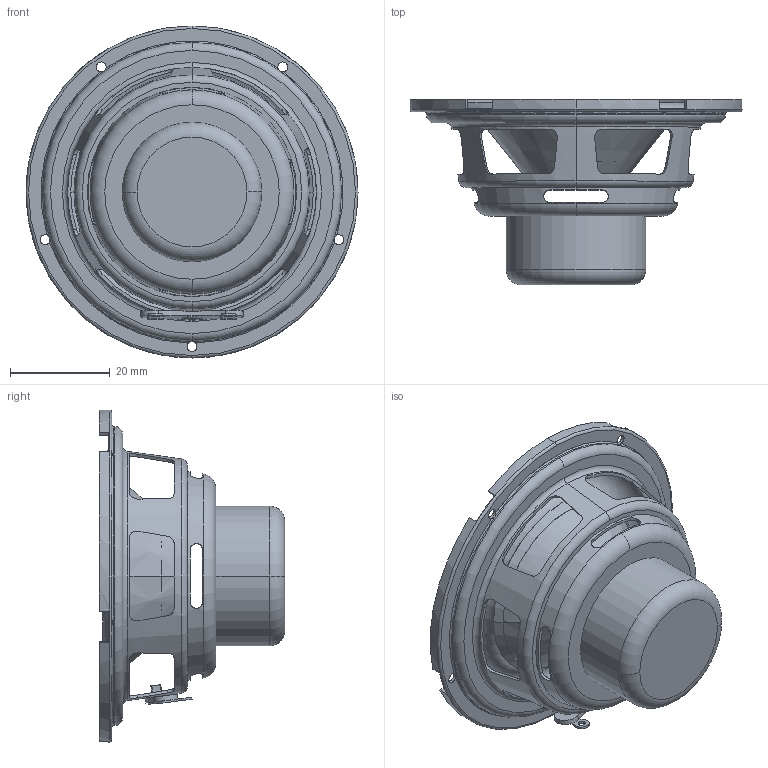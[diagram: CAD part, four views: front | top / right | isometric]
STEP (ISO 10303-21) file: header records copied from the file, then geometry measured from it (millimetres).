
FILE_DESCRIPTION((''),'2;1');
FILE_NAME('5F02C_V2_ASM','2023-09-23T13:31:00',('54257'),(''),'CREO PARAMETRIC BY PTC INC, 2020053','CREO PARAMETRIC BY PTC INC, 2020053','');
FILE_SCHEMA(('CONFIG_CONTROL_DESIGN','SHAPE_APPEARANCE_LAYERS_GROUPS'));
Length unit declared in the file: millimetre
Products named in the file (6): HF-3005-V5; HU_V2; HC_V2; HD_V2; 07-0013-0_V2; 5F02C_V2_ASM
Assembly tree (5 placements, depth 2):
  5F02C_V2_ASM
    HF-3005-V5
    HU_V2
    HC_V2
    HD_V2
    07-0013-0_V2
Bounding box: 66.6 x 37.2 x 66.6 mm (x, y, z)
Volume: 8205.2 mm3; surface area: 20912.6 mm2
Topology: 5 solids, 5 shells, 238 faces, 637 edges, 402 vertices
Faces by surface type: plane 96, cylinder 77, torus 35, cone 26, sphere 4
Entity records: 8879 total; most frequent: CARTESIAN_POINT 2154, DIRECTION 1296, ORIENTED_EDGE 1266, EDGE_CURVE 633, AXIS2_PLACEMENT_3D 526, VERTEX_POINT 402, EDGE_LOOP 277, CIRCLE 277
